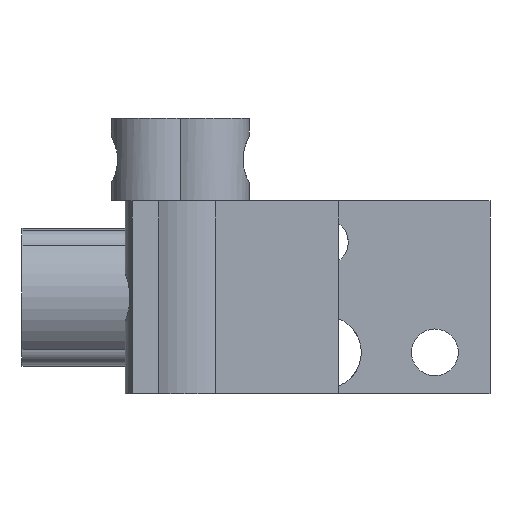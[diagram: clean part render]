
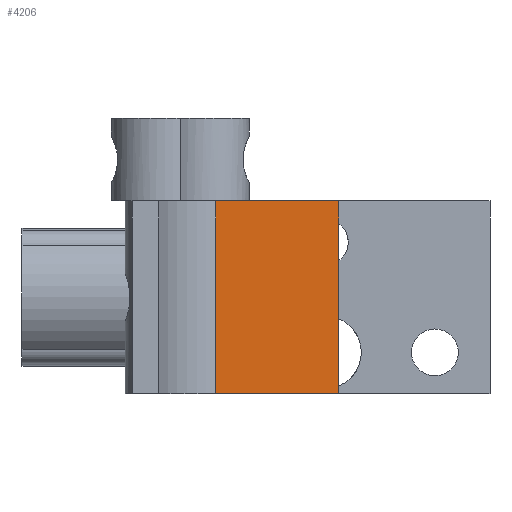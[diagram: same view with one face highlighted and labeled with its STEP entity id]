
A CAD part, front view. The second image highlights one B-rep face of the part: STEP entity #4206.
In plain terms, the highlighted planar face has unit normal (0, -1, 0).
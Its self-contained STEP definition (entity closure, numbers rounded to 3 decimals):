
#44 = PLANE('',#45);
#45 = AXIS2_PLACEMENT_3D('',#46,#47,#48);
#46 = CARTESIAN_POINT('',(0.,-19.,14.));
#47 = DIRECTION('',(0.,0.,1.));
#48 = DIRECTION('',(1.,0.,-0.));
#100 = PLANE('',#101);
#101 = AXIS2_PLACEMENT_3D('',#102,#103,#104);
#102 = CARTESIAN_POINT('',(0.,-19.,0.));
#103 = DIRECTION('',(0.,0.,1.));
#104 = DIRECTION('',(1.,0.,-0.));
#164 = VERTEX_POINT('',#165);
#165 = CARTESIAN_POINT('',(6.062,-19.,14.));
#180 = CYLINDRICAL_SURFACE('',#181,4.5);
#181 = AXIS2_PLACEMENT_3D('',#182,#183,#184);
#182 = CARTESIAN_POINT('',(4.,-15.,0.));
#183 = DIRECTION('',(0.,0.,1.));
#184 = DIRECTION('',(1.,0.,-0.));
#192 = EDGE_CURVE('',#164,#193,#195,.T.);
#193 = VERTEX_POINT('',#194);
#194 = CARTESIAN_POINT('',(15.,-19.,14.));
#195 = SURFACE_CURVE('',#196,(#200,#207),.PCURVE_S1.);
#196 = LINE('',#197,#198);
#197 = CARTESIAN_POINT('',(0.,-19.,14.));
#198 = VECTOR('',#199,1.);
#199 = DIRECTION('',(1.,0.,-0.));
#200 = PCURVE('',#44,#201);
#201 = DEFINITIONAL_REPRESENTATION('',(#202),#206);
#202 = LINE('',#203,#204);
#203 = CARTESIAN_POINT('',(0.,0.));
#204 = VECTOR('',#205,1.);
#205 = DIRECTION('',(1.,0.));
#206 = ( GEOMETRIC_REPRESENTATION_CONTEXT(2) 
PARAMETRIC_REPRESENTATION_CONTEXT() REPRESENTATION_CONTEXT('2D SPACE',''
  ) );
#207 = PCURVE('',#208,#213);
#208 = PLANE('',#209);
#209 = AXIS2_PLACEMENT_3D('',#210,#211,#212);
#210 = CARTESIAN_POINT('',(0.,-19.,0.));
#211 = DIRECTION('',(-0.,1.,0.));
#212 = DIRECTION('',(0.,0.,1.));
#213 = DEFINITIONAL_REPRESENTATION('',(#214),#218);
#214 = LINE('',#215,#216);
#215 = CARTESIAN_POINT('',(14.,0.));
#216 = VECTOR('',#217,1.);
#217 = DIRECTION('',(0.,1.));
#218 = ( GEOMETRIC_REPRESENTATION_CONTEXT(2) 
PARAMETRIC_REPRESENTATION_CONTEXT() REPRESENTATION_CONTEXT('2D SPACE',''
  ) );
#236 = PLANE('',#237);
#237 = AXIS2_PLACEMENT_3D('',#238,#239,#240);
#238 = CARTESIAN_POINT('',(15.,-19.,0.));
#239 = DIRECTION('',(1.,0.,-0.));
#240 = DIRECTION('',(0.,0.,1.));
#880 = VERTEX_POINT('',#881);
#881 = CARTESIAN_POINT('',(6.062,-19.,0.));
#903 = EDGE_CURVE('',#880,#904,#906,.T.);
#904 = VERTEX_POINT('',#905);
#905 = CARTESIAN_POINT('',(15.,-19.,0.));
#906 = SURFACE_CURVE('',#907,(#911,#918),.PCURVE_S1.);
#907 = LINE('',#908,#909);
#908 = CARTESIAN_POINT('',(0.,-19.,0.));
#909 = VECTOR('',#910,1.);
#910 = DIRECTION('',(1.,0.,-0.));
#911 = PCURVE('',#100,#912);
#912 = DEFINITIONAL_REPRESENTATION('',(#913),#917);
#913 = LINE('',#914,#915);
#914 = CARTESIAN_POINT('',(0.,0.));
#915 = VECTOR('',#916,1.);
#916 = DIRECTION('',(1.,0.));
#917 = ( GEOMETRIC_REPRESENTATION_CONTEXT(2) 
PARAMETRIC_REPRESENTATION_CONTEXT() REPRESENTATION_CONTEXT('2D SPACE',''
  ) );
#918 = PCURVE('',#208,#919);
#919 = DEFINITIONAL_REPRESENTATION('',(#920),#924);
#920 = LINE('',#921,#922);
#921 = CARTESIAN_POINT('',(0.,0.));
#922 = VECTOR('',#923,1.);
#923 = DIRECTION('',(0.,1.));
#924 = ( GEOMETRIC_REPRESENTATION_CONTEXT(2) 
PARAMETRIC_REPRESENTATION_CONTEXT() REPRESENTATION_CONTEXT('2D SPACE',''
  ) );
#4050 = EDGE_CURVE('',#904,#193,#4051,.T.);
#4051 = SURFACE_CURVE('',#4052,(#4056,#4063),.PCURVE_S1.);
#4052 = LINE('',#4053,#4054);
#4053 = CARTESIAN_POINT('',(15.,-19.,0.));
#4054 = VECTOR('',#4055,1.);
#4055 = DIRECTION('',(0.,0.,1.));
#4056 = PCURVE('',#236,#4057);
#4057 = DEFINITIONAL_REPRESENTATION('',(#4058),#4062);
#4058 = LINE('',#4059,#4060);
#4059 = CARTESIAN_POINT('',(0.,0.));
#4060 = VECTOR('',#4061,1.);
#4061 = DIRECTION('',(1.,0.));
#4062 = ( GEOMETRIC_REPRESENTATION_CONTEXT(2) 
PARAMETRIC_REPRESENTATION_CONTEXT() REPRESENTATION_CONTEXT('2D SPACE',''
  ) );
#4063 = PCURVE('',#208,#4064);
#4064 = DEFINITIONAL_REPRESENTATION('',(#4065),#4069);
#4065 = LINE('',#4066,#4067);
#4066 = CARTESIAN_POINT('',(0.,15.));
#4067 = VECTOR('',#4068,1.);
#4068 = DIRECTION('',(1.,0.));
#4069 = ( GEOMETRIC_REPRESENTATION_CONTEXT(2) 
PARAMETRIC_REPRESENTATION_CONTEXT() REPRESENTATION_CONTEXT('2D SPACE',''
  ) );
#4206 = ADVANCED_FACE('',(#4207),#208,.F.);
#4207 = FACE_BOUND('',#4208,.F.);
#4208 = EDGE_LOOP('',(#4209,#4210,#4229,#4230));
#4209 = ORIENTED_EDGE('',*,*,#903,.F.);
#4210 = ORIENTED_EDGE('',*,*,#4211,.T.);
#4211 = EDGE_CURVE('',#880,#164,#4212,.T.);
#4212 = SURFACE_CURVE('',#4213,(#4217,#4223),.PCURVE_S1.);
#4213 = LINE('',#4214,#4215);
#4214 = CARTESIAN_POINT('',(6.062,-19.,0.));
#4215 = VECTOR('',#4216,1.);
#4216 = DIRECTION('',(0.,0.,1.));
#4217 = PCURVE('',#208,#4218);
#4218 = DEFINITIONAL_REPRESENTATION('',(#4219),#4222);
#4219 = B_SPLINE_CURVE_WITH_KNOTS('',1,(#4220,#4221),.UNSPECIFIED.,.F.,
  .F.,(2,2),(0.,14.),.PIECEWISE_BEZIER_KNOTS.);
#4220 = CARTESIAN_POINT('',(0.,6.062));
#4221 = CARTESIAN_POINT('',(14.,6.062));
#4222 = ( GEOMETRIC_REPRESENTATION_CONTEXT(2) 
PARAMETRIC_REPRESENTATION_CONTEXT() REPRESENTATION_CONTEXT('2D SPACE',''
  ) );
#4223 = PCURVE('',#180,#4224);
#4224 = DEFINITIONAL_REPRESENTATION('',(#4225),#4228);
#4225 = B_SPLINE_CURVE_WITH_KNOTS('',1,(#4226,#4227),.UNSPECIFIED.,.F.,
  .F.,(2,2),(0.,14.),.PIECEWISE_BEZIER_KNOTS.);
#4226 = CARTESIAN_POINT('',(5.188,0.));
#4227 = CARTESIAN_POINT('',(5.188,14.));
#4228 = ( GEOMETRIC_REPRESENTATION_CONTEXT(2) 
PARAMETRIC_REPRESENTATION_CONTEXT() REPRESENTATION_CONTEXT('2D SPACE',''
  ) );
#4229 = ORIENTED_EDGE('',*,*,#192,.T.);
#4230 = ORIENTED_EDGE('',*,*,#4050,.F.);
